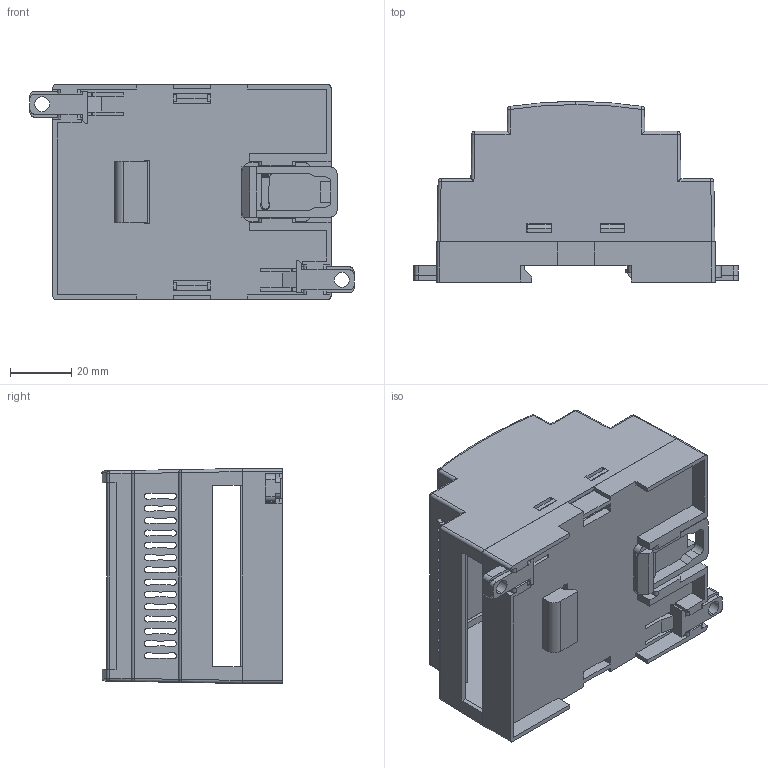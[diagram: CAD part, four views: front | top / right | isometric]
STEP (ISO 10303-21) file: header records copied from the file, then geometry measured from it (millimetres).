
FILE_DESCRIPTION (( 'STEP AP203' ), '1' );
FILE_NAME ('PT204-E.STEP', '2021-11-01T09:04:48', ( '' ), ( '' ), 'SwSTEP 2.0', 'SolidWorks 2021', '' );
FILE_SCHEMA (( 'CONFIG_CONTROL_DESIGN' ));
Length unit declared in the file: millimetre
Products named in the file (6): PT204-E
Assembly tree (6 placements, depth 2):
  PT204-E
    PT204-E
    PT204-E
    PT204-E  x2
    PT204-E
    PT204-E
Bounding box: 105.52 x 58.8 x 70.2 mm (x, y, z)
Volume: 54789.6 mm3; surface area: 61650.7 mm2
Topology: 6 solids, 6 shells, 784 faces, 2267 edges, 1486 vertices
Faces by surface type: plane 392, cylinder 377, sphere 12, bspline 3
Entity records: 25493 total; most frequent: CARTESIAN_POINT 6050, ORIENTED_EDGE 4398, DIRECTION 3422, EDGE_CURVE 2199, VECTOR 1446, VERTEX_POINT 1446, LINE 1446, AXIS2_PLACEMENT_3D 988
